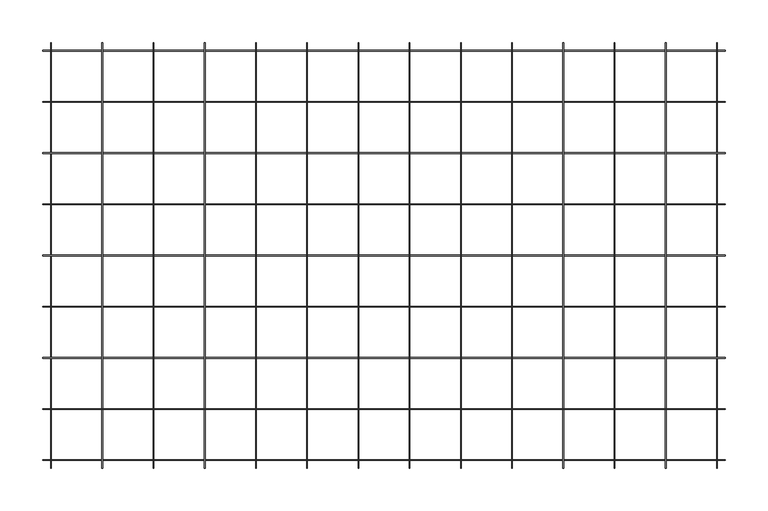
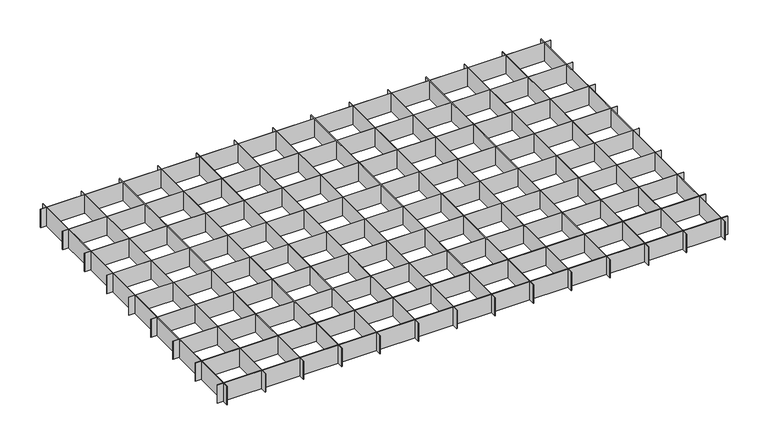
"""IFC4 building model written with IfcOpenShell, lengths in millimetres: proxy geometry, durlum_QUADRA_panel : durlum_QUADRA_corner_cut."""

from ifc_helpers import new_model, si_unit, origin, origin_with_axes, place, context, project, spatial, polyline, outline, extrude, source, transform, mapped, element, save


def generic_models_8601f142(model_context):
    return source(origin(), model_context, "Body", "SweptSolid", [
        extrude(outline(polyline([(399.75, -179.6), (399.75, -180.4), (-399.75, -180.4), (-399.75, -179.6), (399.75, -179.6)])), origin_with_axes(), (0.0, 0.0, 1.0), 30.0),
        extrude(outline(polyline([(329.6, 249.5), (330.4, 249.5), (330.4, -249.5), (329.6, -249.5), (329.6, 249.5)])), origin_with_axes(), (0.0, 0.0, 1.0), 30.0),
        extrude(outline(polyline([(269.6, 249.5), (270.4, 249.5), (270.4, -249.5), (269.6, -249.5), (269.6, 249.5)])), origin_with_axes(), (0.0, 0.0, 1.0), 30.0),
        extrude(outline(polyline([(209.6, 249.5), (210.4, 249.5), (210.4, -249.5), (209.6, -249.5), (209.6, 249.5)])), origin_with_axes(), (0.0, 0.0, 1.0), 30.0),
        extrude(outline(polyline([(149.6, 249.5), (150.4, 249.5), (150.4, -249.5), (149.6, -249.5), (149.6, 249.5)])), origin_with_axes(), (0.0, 0.0, 1.0), 30.0),
        extrude(outline(polyline([(89.6, 249.5), (90.4, 249.5), (90.4, -249.5), (89.6, -249.5), (89.6, 249.5)])), origin_with_axes(), (0.0, 0.0, 1.0), 30.0),
        extrude(outline(polyline([(29.6, 249.5), (30.4, 249.5), (30.4, -249.5), (29.6, -249.5), (29.6, 249.5)])), origin_with_axes(), (0.0, 0.0, 1.0), 30.0),
        extrude(outline(polyline([(-30.4, 249.5), (-29.6, 249.5), (-29.6, -249.5), (-30.4, -249.5), (-30.4, 249.5)])), origin_with_axes(), (0.0, 0.0, 1.0), 30.0),
        extrude(outline(polyline([(-90.4, 249.5), (-89.6, 249.5), (-89.6, -249.5), (-90.4, -249.5), (-90.4, 249.5)])), origin_with_axes(), (0.0, 0.0, 1.0), 30.0),
        extrude(outline(polyline([(-150.4, 249.5), (-149.6, 249.5), (-149.6, -249.5), (-150.4, -249.5), (-150.4, 249.5)])), origin_with_axes(), (0.0, 0.0, 1.0), 30.0),
        extrude(outline(polyline([(-210.4, 249.5), (-209.6, 249.5), (-209.6, -249.5), (-210.4, -249.5), (-210.4, 249.5)])), origin_with_axes(), (0.0, 0.0, 1.0), 30.0),
        extrude(outline(polyline([(-270.4, 249.5), (-269.6, 249.5), (-269.6, -249.5), (-270.4, -249.5), (-270.4, 249.5)])), origin_with_axes(), (0.0, 0.0, 1.0), 30.0),
        extrude(outline(polyline([(-330.4, 249.5), (-329.6, 249.5), (-329.6, -249.5), (-330.4, -249.5), (-330.4, 249.5)])), origin_with_axes(), (0.0, 0.0, 1.0), 30.0),
        extrude(outline(polyline([(399.75, -119.6), (399.75, -120.4), (-399.75, -120.4), (-399.75, -119.6), (399.75, -119.6)])), origin_with_axes(), (0.0, 0.0, 1.0), 30.0),
        extrude(outline(polyline([(399.75, -59.6), (399.75, -60.4), (-399.75, -60.4), (-399.75, -59.6), (399.75, -59.6)])), origin_with_axes(), (0.0, 0.0, 1.0), 30.0),
        extrude(outline(polyline([(399.75, 0.4), (399.75, -0.4), (-399.75, -0.4), (-399.75, 0.4), (399.75, 0.4)])), origin_with_axes(), (0.0, 0.0, 1.0), 30.0),
        extrude(outline(polyline([(399.75, 60.4), (399.75, 59.6), (-399.75, 59.6), (-399.75, 60.4), (399.75, 60.4)])), origin_with_axes(), (0.0, 0.0, 1.0), 30.0),
        extrude(outline(polyline([(399.75, 120.4), (399.75, 119.6), (-399.75, 119.6), (-399.75, 120.4), (399.75, 120.4)])), origin_with_axes(), (0.0, 0.0, 1.0), 30.0),
        extrude(outline(polyline([(399.75, 180.4), (399.75, 179.6), (-399.75, 179.6), (-399.75, 180.4), (399.75, 180.4)])), origin_with_axes(), (0.0, 0.0, 1.0), 30.0),
        extrude(outline(polyline([(389.6, 249.5), (390.4, 249.5), (390.4, -249.5), (389.6, -249.5), (389.6, 249.5)])), origin_with_axes(), (0.0, 0.0, 1.0), 30.0),
        extrude(outline(polyline([(-390.4, 249.5), (-389.6, 249.5), (-389.6, -249.5), (-390.4, -249.5), (-390.4, 249.5)])), origin_with_axes(), (0.0, 0.0, 1.0), 30.0),
        extrude(outline(polyline([(399.75, -239.6), (399.75, -240.4), (-399.75, -240.4), (-399.75, -239.6), (399.75, -239.6)])), origin_with_axes(), (0.0, 0.0, 1.0), 30.0),
        extrude(outline(polyline([(399.75, 240.4), (399.75, 239.6), (-399.75, 239.6), (-399.75, 240.4), (399.75, 240.4)])), origin_with_axes(), (0.0, 0.0, 1.0), 30.0),
    ])


if __name__ == "__main__":
    model = new_model("IFC4")
    model_context = context("Model", 3, world=origin())
    ifc_project = project(units=[si_unit("LENGTHUNIT", "METRE", prefix="MILLI")], contexts=[model_context])
    site = spatial("IfcSite", under=ifc_project)
    building = spatial("IfcBuilding", under=site)
    placement = place(None, origin())
    generic_models_shape = generic_models_8601f142(model_context)
    element("IfcBuildingElementProxy", 1, Name="durlum_QUADRA_panel : durlum_QUADRA_corner_cut", ObjectType="durlum_QUADRA_panel : durlum_QUADRA_corner_cut", at=placement, inside=building, context=model_context, shape_type="MappedRepresentation", body=[
        mapped(generic_models_shape, transform((0.0, 0.0, 0.0), x_axis=(1.0, 0.0, 0.0), y_axis=(0.0, 1.0, 0.0), z_axis=(0.0, 0.0, 1.0))),
    ])
    save(model, "model.ifc")
